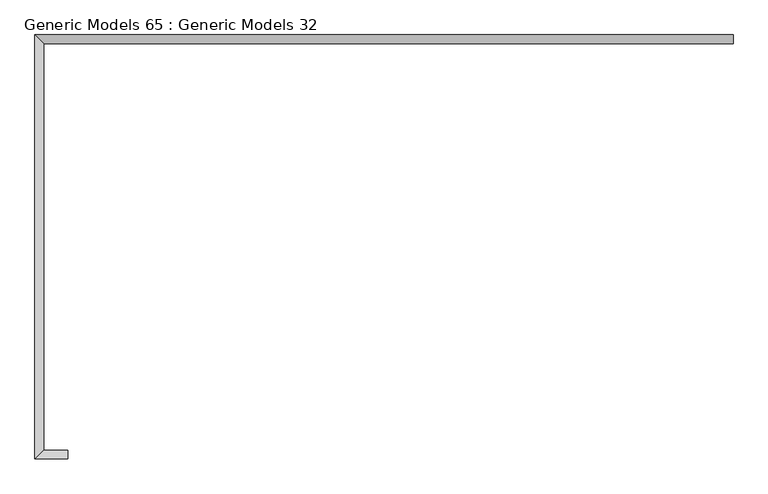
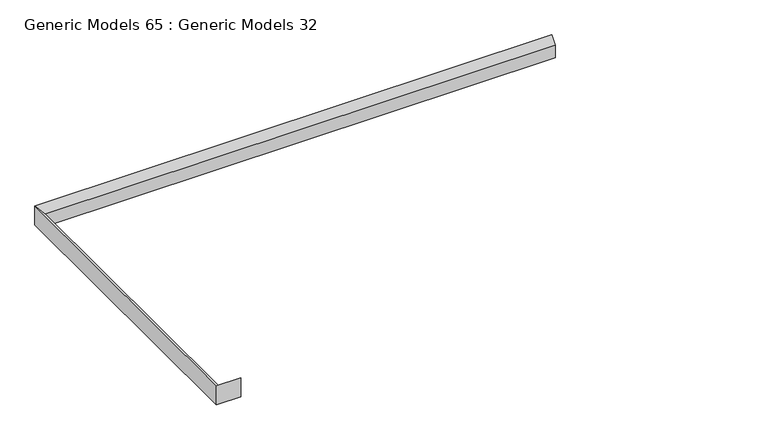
"""IFC4 building model written with IfcOpenShell, lengths in millimetres: proxy geometry, Generic Models 65 : Generic Models 32."""

from ifc_helpers import new_model, si_unit, origin, place, context, project, spatial, faceted_brep, source, transform, mapped, element, save


def generic_models_65_generic_models_32_f5ca0920(model_context):
    return source(origin(), model_context, "Body", "Brep", [
        faceted_brep([(-96197.9372768, 15357.4703267, 44470.0), (-96197.9372768, 15357.4703267, 44170.0), (-96197.9372768, 22257.4703267, 44170.0), (-96197.9372768, 22257.4703267, 44470.0), (-96347.9372768, 15207.4703267, 44630.0), (-96347.9372768, 22407.4703267, 44630.0), (-96347.9372768, 15207.4703267, 44170.0), (-96347.9372768, 22407.4703267, 44170.0), (-84507.9372768, 22257.4703267, 44170.0), (-84507.9372768, 22257.4703267, 44470.0), (-84507.9372768, 22407.4703267, 44630.0), (-84507.9372768, 22407.4703267, 44170.0), (-95787.9372768, 15357.4703267, 44170.0), (-95787.9372768, 15357.4703267, 44470.0), (-95787.9372768, 15207.4703267, 44630.0), (-95787.9372768, 15207.4703267, 44170.0)], [[[0, 1, 2, 3]], [[4, 0, 3, 5]], [[6, 4, 5, 7]], [[3, 2, 8, 9]], [[5, 3, 9, 10]], [[7, 5, 10, 11]], [[12, 13, 14, 15]], [[8, 11, 10, 9]], [[13, 12, 1, 0]], [[14, 13, 0, 4]], [[15, 14, 4, 6]], [[12, 15, 6, 7, 11, 8, 2, 1]]]),
    ])


if __name__ == "__main__":
    model = new_model("IFC4")
    model_context = context("Model", 3, world=origin())
    ifc_project = project(units=[si_unit("LENGTHUNIT", "METRE", prefix="MILLI")], contexts=[model_context])
    site = spatial("IfcSite", under=ifc_project)
    building = spatial("IfcBuilding", under=site)
    placement = place(None, origin())
    generic_models_65_generic_models_32_shape = generic_models_65_generic_models_32_f5ca0920(model_context)
    element("IfcBuildingElementProxy", 1, Name="Generic Models 65 : Generic Models 32", ObjectType="Generic Models 65 : Generic Models 32", at=placement, inside=building, context=model_context, shape_type="MappedRepresentation", body=[
        mapped(generic_models_65_generic_models_32_shape, transform((0.0, 0.0, 0.0), x_axis=(1.0, 0.0, 0.0), y_axis=(0.0, 1.0, 0.0), z_axis=(0.0, 0.0, 1.0))),
    ])
    save(model, "model.ifc")
